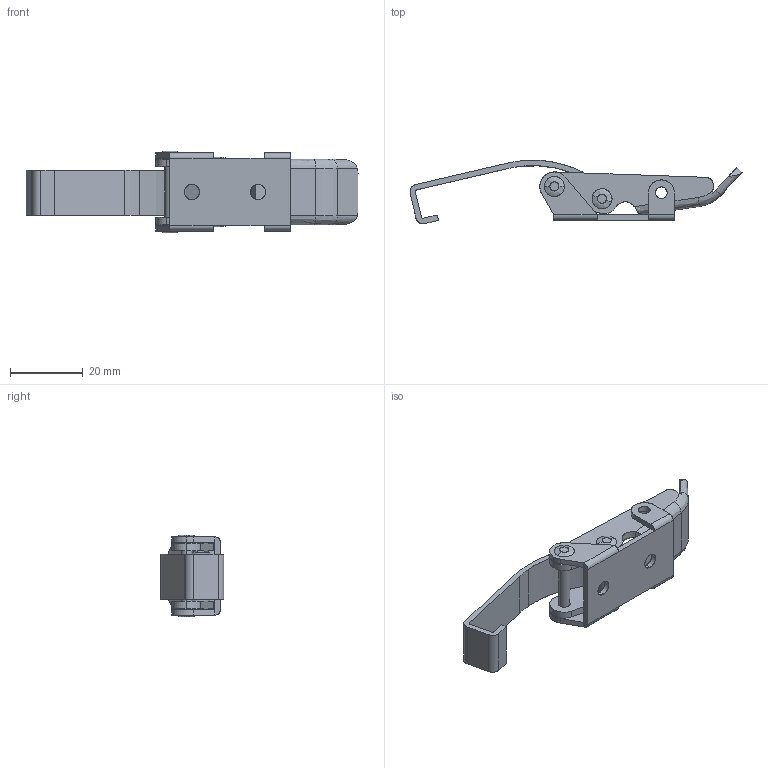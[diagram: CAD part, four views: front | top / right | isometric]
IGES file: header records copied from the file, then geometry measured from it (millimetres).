
Start section: SolidWorks IGES file using analytic representation for surfaces
Global section: file name: C:\Users\cbrechard\Desktop\GE 100.IGS; native system: SolidWorks 2017; preprocessor: SolidWorks 2017; author: cbrechard; date: 190909.163751; units: millimetre
Bounding box: 91.26 x 17.46 x 22.5 mm (x, y, z)
Surface area: 8234.8 mm2 (no closed solid volume)
Topology: 0 solids, 0 shells, 137 faces, 2340 edges, 2340 vertices
Faces by surface type: bspline 71, revolution 66
